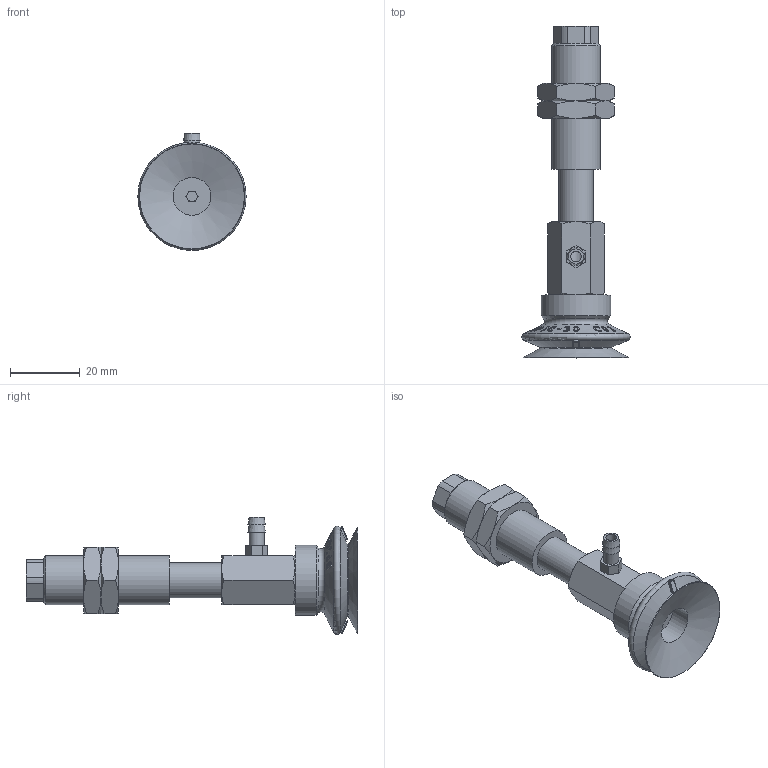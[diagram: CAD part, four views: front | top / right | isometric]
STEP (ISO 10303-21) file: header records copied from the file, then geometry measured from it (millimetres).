
FILE_DESCRIPTION(('STEP AP214'),'1');
FILE_NAME('-T.stp','2026-01-21T05:55:32',(' '),(' '),'Spatial InterOp 3D',' ',' ');
FILE_SCHEMA(('AUTOMOTIVE_DESIGN { 1 0 10303 214 1 1 1 1 }'));
Length unit declared in the file: millimetre
Products named in the file (8): BNABPJYS-30-15-※-T; T; BPJG-30-※; Adapter-30-NAPJ; CONNECTOR_S-30-15; NUT-NAPJ-30-15-s; NAPJYS-30-15-FBODY; NAPJYS-30-15-MBODY
Assembly tree (8 placements, depth 2):
  BNABPJYS-30-15-※-T
    T
    BPJG-30-※
    Adapter-30-NAPJ
    CONNECTOR_S-30-15
    NUT-NAPJ-30-15-s  x2
    NAPJYS-30-15-FBODY
    NAPJYS-30-15-MBODY
Bounding box: 30.99 x 95 x 33.5 mm (x, y, z)
Volume: 18168.2 mm3; surface area: 13320.1 mm2
Topology: 8 solids, 8 shells, 800 faces, 2202 edges, 1445 vertices
Faces by surface type: plane 687, cone 73, cylinder 33, torus 7
Full cylindrical faces by diameter (mm): 3 x3, 4.134 x2, 4.3 x1, 4.917 x1, 5 x2, 5.8 x1, 6 x1, 10 x2, 10.8 x1, 11 x1, 13.188 x2, 14 x1, 20 x1
Entity records: 31891 total; most frequent: CARTESIAN_POINT 7859, ORIENTED_EDGE 4218, DIRECTION 2715, EDGE_CURVE 2109, VERTEX_POINT 1412, B_SPLINE_CURVE_WITH_KNOTS 1083, LINE 909, VECTOR 909
